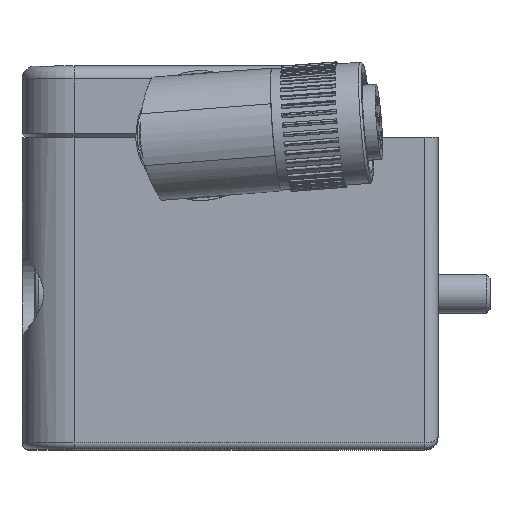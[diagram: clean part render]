
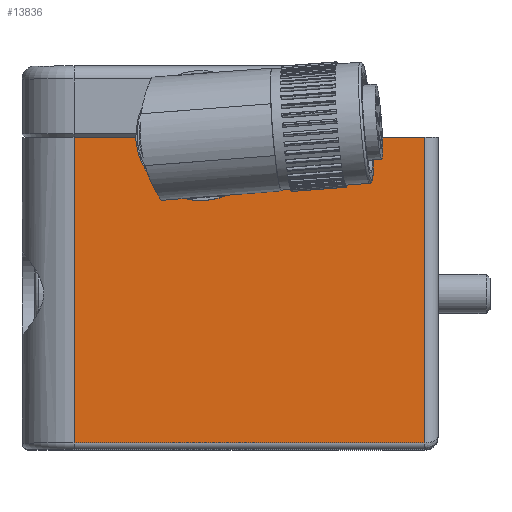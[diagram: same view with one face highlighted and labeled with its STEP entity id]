
A CAD part, top view. The second image highlights one B-rep face of the part: STEP entity #13836.
In plain terms, the highlighted planar face has unit normal (0, 0, 1).
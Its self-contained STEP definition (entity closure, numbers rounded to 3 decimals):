
#523=PLANE('',#15305);
#1351=FACE_OUTER_BOUND('',#2213,.T.);
#2213=EDGE_LOOP('',(#11788,#11789,#11790,#11791,#11792,#11793));
#2986=CIRCLE('',#15306,4.4);
#4095=LINE('',#25309,#5060);
#4105=LINE('',#25338,#5070);
#4106=LINE('',#25342,#5071);
#4107=LINE('',#25346,#5072);
#4108=LINE('',#25347,#5073);
#5060=VECTOR('',#19058,10.);
#5070=VECTOR('',#19082,10.);
#5071=VECTOR('',#19087,10.);
#5072=VECTOR('',#19090,10.);
#5073=VECTOR('',#19091,10.);
#6282=VERTEX_POINT('',#25301);
#6284=VERTEX_POINT('',#25307);
#6296=VERTEX_POINT('',#25337);
#6297=VERTEX_POINT('',#25341);
#6298=VERTEX_POINT('',#25343);
#6299=VERTEX_POINT('',#25345);
#8142=EDGE_CURVE('',#6284,#6282,#4095,.T.);
#8156=EDGE_CURVE('',#6282,#6296,#4105,.T.);
#8158=EDGE_CURVE('',#6297,#6284,#4106,.T.);
#8159=EDGE_CURVE('',#6298,#6297,#2986,.T.);
#8160=EDGE_CURVE('',#6299,#6298,#4107,.T.);
#8161=EDGE_CURVE('',#6296,#6299,#4108,.T.);
#11788=ORIENTED_EDGE('',*,*,#8142,.F.);
#11789=ORIENTED_EDGE('',*,*,#8158,.F.);
#11790=ORIENTED_EDGE('',*,*,#8159,.F.);
#11791=ORIENTED_EDGE('',*,*,#8160,.F.);
#11792=ORIENTED_EDGE('',*,*,#8161,.F.);
#11793=ORIENTED_EDGE('',*,*,#8156,.F.);
#13836=ADVANCED_FACE('',(#1351),#523,.T.);
#15305=AXIS2_PLACEMENT_3D('',#25340,#19085,#19086);
#15306=AXIS2_PLACEMENT_3D('',#25344,#19088,#19089);
#19058=DIRECTION('',(0.,-1.,0.));
#19082=DIRECTION('',(-1.,0.,0.));
#19085=DIRECTION('center_axis',(0.,0.,
1.));
#19086=DIRECTION('ref_axis',(0.,1.,0.));
#19087=DIRECTION('',(1.,0.,0.));
#19088=DIRECTION('center_axis',(0.,0.,
1.));
#19089=DIRECTION('ref_axis',(0.,-1.,0.));
#19090=DIRECTION('',(1.,0.,0.));
#19091=DIRECTION('',(0.,1.,0.));
#25301=CARTESIAN_POINT('',(-37.,0.6,17.));
#25307=CARTESIAN_POINT('',(-37.,24.1,17.));
#25309=CARTESIAN_POINT('',(-37.,24.1,17.));
#25337=CARTESIAN_POINT('',(-64.,0.6,17.));
#25338=CARTESIAN_POINT('',(-60.,0.6,17.));
#25340=CARTESIAN_POINT('Origin',(-68.,24.1,17.));
#25341=CARTESIAN_POINT('',(-49.85,24.1,17.));
#25342=CARTESIAN_POINT('',(-68.,24.1,17.));
#25343=CARTESIAN_POINT('',(-58.65,24.1,17.));
#25344=CARTESIAN_POINT('Origin',(-54.25,24.1,17.));
#25345=CARTESIAN_POINT('',(-64.,24.1,17.));
#25346=CARTESIAN_POINT('',(-68.,24.1,17.));
#25347=CARTESIAN_POINT('',(-64.,24.1,17.));
